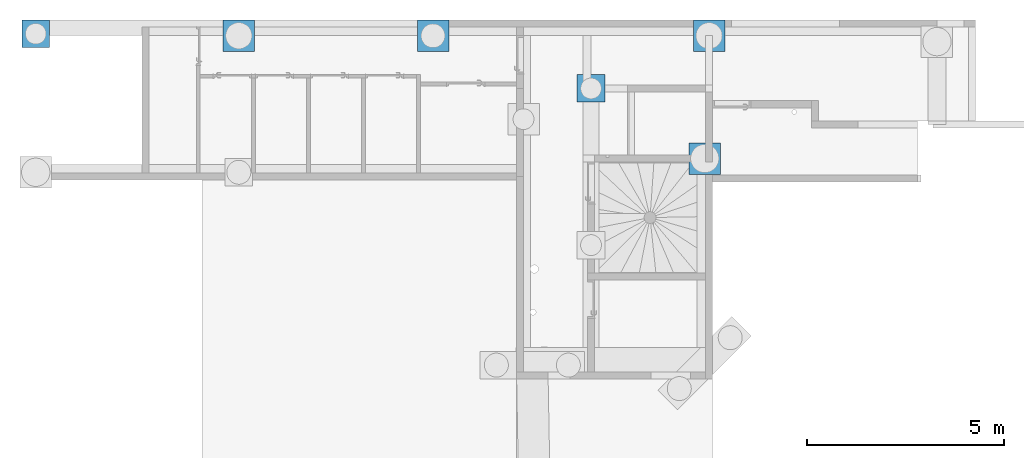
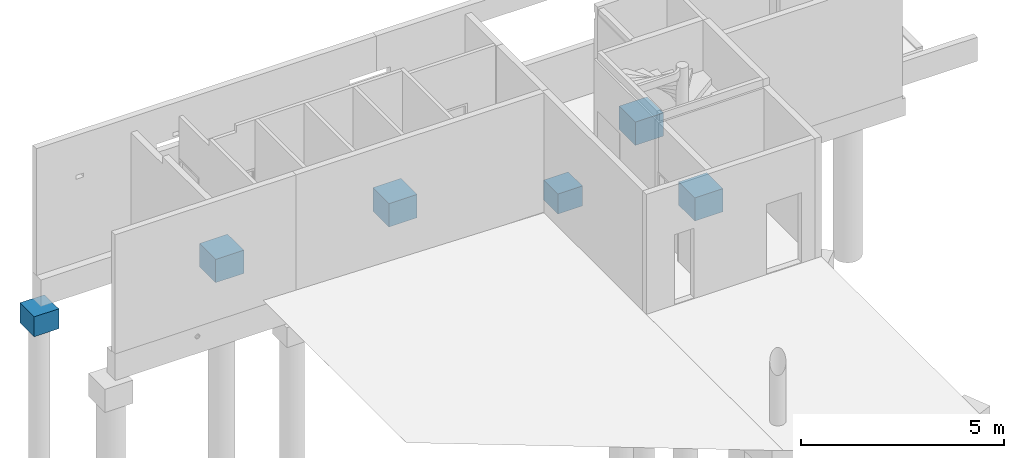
# One storey, part 11 of 14: 6 slabs.
"""IFC2X3 building model written with IfcOpenShell, lengths in centimetres."""

from ifc_helpers import new_model, entity, si_unit, converted_unit, derived_unit, direction, frame, origin, place, context, subcontext, project, spatial, faceted_brep, material, element, save


model = new_model("IFC2X3")

# Units and contexts
model_context = context("Model", 3, precision=0.001, world=origin(), true_north=direction((6.12303176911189e-17, 1.0)))
body_context = subcontext(model_context, "Body", "Model", "MODEL_VIEW")
ifc_project = project(units=[si_unit("LENGTHUNIT", "METRE", prefix="CENTI"), si_unit("AREAUNIT", "SQUARE_METRE"), si_unit("VOLUMEUNIT", "CUBIC_METRE"), converted_unit("PLANEANGLEUNIT", "DEGREE", entity("IfcRatioMeasure", 0.0174532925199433), si_unit("PLANEANGLEUNIT", "RADIAN"), dimensions=[0, 0, 0, 0, 0, 0, 0]), si_unit("MASSUNIT", "GRAM", prefix="KILO"), derived_unit("MASSDENSITYUNIT", [(si_unit("MASSUNIT", "GRAM", prefix="KILO"), 1), (si_unit("LENGTHUNIT", "METRE"), -3)]), si_unit("TIMEUNIT", "SECOND"), si_unit("FREQUENCYUNIT", "HERTZ"), si_unit("THERMODYNAMICTEMPERATUREUNIT", "DEGREE_CELSIUS"), derived_unit("THERMALTRANSMITTANCEUNIT", [(si_unit("MASSUNIT", "GRAM", prefix="KILO"), 1), (si_unit("THERMODYNAMICTEMPERATUREUNIT", "KELVIN"), -1), (si_unit("TIMEUNIT", "SECOND"), -3)]), derived_unit("VOLUMETRICFLOWRATEUNIT", [(si_unit("LENGTHUNIT", "METRE"), 3), (si_unit("TIMEUNIT", "SECOND"), -1)]), si_unit("ELECTRICCURRENTUNIT", "AMPERE"), si_unit("ELECTRICVOLTAGEUNIT", "VOLT"), si_unit("POWERUNIT", "WATT"), si_unit("FORCEUNIT", "NEWTON"), si_unit("ILLUMINANCEUNIT", "LUX"), si_unit("LUMINOUSFLUXUNIT", "LUMEN"), si_unit("LUMINOUSINTENSITYUNIT", "CANDELA"), derived_unit("USERDEFINED", [(si_unit("MASSUNIT", "GRAM", prefix="KILO"), -1), (si_unit("LENGTHUNIT", "METRE"), -2), (si_unit("TIMEUNIT", "SECOND"), 3), (si_unit("LUMINOUSFLUXUNIT", "LUMEN"), 1)]), derived_unit("LINEARVELOCITYUNIT", [(si_unit("LENGTHUNIT", "METRE"), 1), (si_unit("TIMEUNIT", "SECOND"), -1)]), si_unit("PRESSUREUNIT", "PASCAL"), derived_unit("USERDEFINED", [(si_unit("LENGTHUNIT", "METRE"), -2), (si_unit("MASSUNIT", "GRAM", prefix="KILO"), 1), (si_unit("TIMEUNIT", "SECOND"), -2)])], contexts=[model_context])

# Site, building, storey
site_placement = place(None, origin())
site = spatial("IfcSite", under=ifc_project, at=site_placement, Name="Default", CompositionType="ELEMENT")
building_placement = place(site_placement, origin())
building = spatial("IfcBuilding", under=site, at=building_placement, Name="CAGE 03", CompositionType="ELEMENT")
storey_placement = place(building_placement, frame((0.0, 0.0, -42.0)))
storey = spatial("IfcBuildingStorey", under=building, at=storey_placement, Name="+3.58", CompositionType="ELEMENT", Elevation=-42.0000000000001)

# Slabs
ifc_material = material(Name="Béton, C25/30")
slab_1_placement = place(storey_placement, frame((8753.36582014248, 5223.6606660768, -140.0)))
element("IfcSlab", 1, at=slab_1_placement, inside=storey, material=ifc_material, Name="M_Base-Rectangulaire:70x70x60ht", ObjectType="M_Base-Rectangulaire:70x70x60ht", PredefinedType="BASESLAB", context=body_context, shape_type="Brep", body=[
    faceted_brep([(70.0, 70.0, 60.0), (36.0, 70.0, 60.0), (34.0, 70.0, 60.0), (0.0, 70.0, 60.0), (0.0, 30.0, 60.0), (0.0, 0.0, 60.0), (70.0, 0.0, 60.0), (0.0, 0.0, 0.0), (8.500000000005, 35.0, 0.0), (10.692009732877, 30.0766655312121, 0.0), (0.0, 70.0, 0.0), (12.884019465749, 25.1533310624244, 0.0), (15.0760291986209, 20.2299965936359, 0.0), (17.2680389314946, 15.306662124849, 0.0), (22.3935302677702, 13.6412890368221, 0.0), (27.5190216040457, 11.9759159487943, 0.0), (32.6445129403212, 10.3105428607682, 0.0), (37.7700042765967, 8.64516977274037, 0.0), (70.0, 0.0, 0.0), (11.0305248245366, 42.7881545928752, 0.0), (13.5610496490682, 50.5763091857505, 0.0), (18.2282861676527, 53.2709394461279, 0.0), (22.895522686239, 55.9655697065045, 0.0), (27.5627592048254, 58.6601999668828, 0.0), (32.2299957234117, 61.3548302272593, 0.0), (70.0, 70.0, 0.0), (61.5000000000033, 35.0, 0.0), (59.3079902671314, 39.9233344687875, 0.0), (57.1159805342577, 44.8466689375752, 0.0), (54.9239708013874, 49.7700034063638, 0.0), (52.7319610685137, 54.6933378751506, 0.0), (47.6064697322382, 56.3587109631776, 0.0), (42.4809783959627, 58.0240840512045, 0.0), (37.3554870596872, 59.6894571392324, 0.0), (42.437240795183, 11.3398000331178, 0.0), (47.1044773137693, 14.0344302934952, 0.0), (51.7717138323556, 16.7290605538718, 0.0), (56.4389503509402, 19.4236908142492, 0.0), (58.9694751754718, 27.2118454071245, 0.0), (8.50000000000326, 35.0, 5.0), (10.692009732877, 39.9233344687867, 5.0), (12.884019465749, 44.8466689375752, 5.0), (15.0760291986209, 49.7700034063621, 5.0), (17.2680389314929, 54.6933378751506, 5.0), (22.3935302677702, 56.3587109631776, 5.0), (27.5190216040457, 58.0240840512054, 5.0), (32.6445129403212, 59.6894571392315, 5.0), (37.7700042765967, 61.3548302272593, 5.0), (42.437240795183, 58.6601999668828, 5.0), (47.1044773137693, 55.9655697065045, 5.0), (51.7717138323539, 53.2709394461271, 5.0), (56.4389503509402, 50.5763091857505, 5.0), (58.9694751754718, 42.7881545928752, 5.0), (61.5000000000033, 35.0, 5.0), (59.3079902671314, 30.0766655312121, 5.0), (57.1159805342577, 25.1533310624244, 5.0), (54.9239708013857, 20.2299965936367, 5.0), (52.7319610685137, 15.306662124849, 5.0), (47.6064697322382, 13.6412890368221, 5.0), (42.4809783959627, 11.9759159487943, 5.0), (37.3554870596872, 10.3105428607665, 5.0), (32.2299957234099, 8.64516977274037, 5.0), (27.5627592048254, 11.3398000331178, 5.0), (22.895522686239, 14.0344302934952, 5.0), (18.2282861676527, 16.7290605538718, 5.0), (13.5610496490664, 19.4236908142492, 5.0), (11.0305248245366, 27.2118454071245, 5.0)], [[[0, 1, 2, 3, 4, 5, 6]], [[7, 8, 9]], [[8, 7, 10]], [[7, 9, 11]], [[7, 11, 12]], [[7, 12, 13]], [[7, 13, 14]], [[7, 14, 15]], [[7, 15, 16]], [[7, 16, 17]], [[17, 18, 7]], [[10, 19, 8]], [[10, 20, 19]], [[10, 21, 20]], [[10, 22, 21]], [[10, 23, 22]], [[10, 24, 23]], [[24, 10, 25]], [[26, 25, 18]], [[25, 26, 27]], [[25, 27, 28]], [[25, 28, 29]], [[25, 29, 30]], [[25, 30, 31]], [[25, 31, 32]], [[25, 32, 33]], [[25, 33, 24]], [[18, 17, 34]], [[18, 34, 35]], [[18, 35, 36]], [[18, 36, 37]], [[18, 37, 38]], [[18, 38, 26]], [[4, 3, 10, 7, 5]], [[6, 5, 7, 18]], [[0, 6, 18, 25]], [[3, 2, 1, 0, 25, 10]], [[39, 40, 41, 42, 43, 44, 45, 46, 47, 48, 49, 50, 51, 52, 53, 54, 55, 56, 57, 58, 59, 60, 61, 62, 63, 64, 65, 66]], [[12, 11, 65]], [[66, 9, 39]], [[66, 65, 11]], [[65, 64, 12]], [[38, 37, 55]], [[62, 61, 15]], [[39, 9, 8]], [[35, 58, 36]], [[14, 13, 63]], [[37, 36, 57]], [[38, 54, 26]], [[15, 61, 16]], [[63, 13, 64]], [[11, 9, 66]], [[60, 16, 61]], [[64, 13, 12]], [[59, 58, 35]], [[14, 62, 15]], [[57, 36, 58]], [[56, 55, 37, 57]], [[60, 17, 16]], [[34, 17, 59, 35]], [[14, 63, 62]], [[53, 26, 54]], [[60, 59, 17]], [[38, 55, 54]], [[29, 28, 51]], [[52, 27, 53]], [[52, 51, 28]], [[51, 50, 29]], [[49, 30, 50]], [[48, 31, 49]], [[53, 27, 26]], [[24, 46, 23]], [[48, 47, 32]], [[42, 41, 20, 43]], [[19, 40, 8]], [[32, 47, 33]], [[28, 27, 52]], [[46, 24, 33]], [[50, 30, 29]], [[45, 44, 22]], [[31, 30, 49]], [[19, 20, 41]], [[48, 32, 31]], [[39, 8, 40]], [[45, 23, 46]], [[43, 21, 44]], [[22, 44, 21]], [[43, 20, 21]], [[46, 33, 47]], [[45, 22, 23]], [[19, 41, 40]]]),
])
slab_2_placement = place(storey_placement, frame((9757.86582014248, 5213.66066607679, -155.0)))
element("IfcSlab", 2, at=slab_2_placement, inside=storey, material=ifc_material, Name="M_Base-Rectangulaire:80x80x70ht", ObjectType="M_Base-Rectangulaire:80x80x70ht", PredefinedType="BASESLAB", context=body_context, shape_type="Brep", body=[
    faceted_brep([(80.0, 80.0, 70.0), (0.0, 80.0, 70.0), (0.0, 40.0, 70.0), (0.0, 0.0, 70.0), (80.0, 0.0, 70.0), (0.0, 0.0, 0.0), (9.49999999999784, 40.0, 0.0), (11.7333107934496, 34.6083107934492, 0.0), (0.0, 80.0, 0.0), (13.9666215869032, 29.2166215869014, 0.0), (16.199932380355, 23.8249323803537, 0.0), (18.4332431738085, 18.4332431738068, 0.0), (23.8249323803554, 16.1999323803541, 0.0), (29.216621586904, 13.9666215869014, 0.0), (34.6083107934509, 11.7333107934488, 0.0), (40.0, 9.49999999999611, 0.0), (80.0, 0.0, 0.0), (11.7333107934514, 45.391689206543, 0.0), (13.9666215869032, 50.7833784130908, 0.0), (16.199932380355, 56.1750676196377, 0.0), (18.4332431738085, 61.5667568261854, 0.0), (23.8249323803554, 63.8000676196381, 0.0), (29.216621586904, 66.0333784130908, 0.0), (34.6083107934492, 68.2666892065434, 0.0), (40.0, 70.4999999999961, 0.0), (80.0, 80.0, 0.0), (70.4999999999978, 40.0, 0.0), (68.2666892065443, 45.3916892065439, 0.0), (66.0333784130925, 50.7833784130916, 0.0), (63.8000676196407, 56.1750676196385, 0.0), (61.5667568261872, 61.5667568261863, 0.0), (56.1750676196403, 63.800067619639, 0.0), (50.7833784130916, 66.0333784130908, 0.0), (45.3916892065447, 68.2666892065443, 0.0), (45.3916892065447, 11.7333107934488, 0.0), (50.7833784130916, 13.9666215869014, 0.0), (56.1750676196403, 16.1999323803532, 0.0), (61.5667568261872, 18.4332431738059, 0.0), (63.8000676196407, 23.8249323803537, 0.0), (66.0333784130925, 29.2166215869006, 0.0), (68.2666892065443, 34.6083107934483, 0.0), (40.0, 70.4999999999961, 5.0), (45.3916892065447, 68.2666892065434, 5.0), (50.7833784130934, 66.0333784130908, 5.0), (56.1750676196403, 63.8000676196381, 5.0), (61.5667568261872, 61.5667568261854, 5.0), (64.814785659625, 53.7253215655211, 5.0), (67.6573928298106, 46.8626607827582, 5.0), (70.4999999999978, 40.0, 5.0), (67.6573928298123, 33.137339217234, 5.0), (66.0333784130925, 29.2166215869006, 5.0), (63.8000676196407, 23.8249323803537, 5.0), (61.5667568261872, 18.4332431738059, 5.0), (56.1750676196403, 16.1999323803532, 5.0), (50.7833784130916, 13.9666215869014, 5.0), (45.3916892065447, 11.7333107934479, 5.0), (40.0, 9.49999999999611, 5.0), (34.6083107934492, 11.7333107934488, 5.0), (29.216621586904, 13.9666215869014, 5.0), (23.8249323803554, 16.1999323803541, 5.0), (18.4332431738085, 18.4332431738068, 5.0), (15.1852143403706, 26.2746784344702, 5.0), (12.3426071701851, 33.1373392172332, 5.0), (9.49999999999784, 40.0, 5.0), (12.3426071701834, 46.8626607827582, 5.0), (13.9666215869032, 50.7833784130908, 5.0), (16.1999323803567, 56.1750676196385, 5.0), (18.4332431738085, 61.5667568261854, 5.0), (23.8249323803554, 63.8000676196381, 5.0), (29.216621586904, 66.0333784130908, 5.0), (34.6083107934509, 68.2666892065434, 5.0)], [[[0, 1, 2, 3, 4]], [[5, 6, 7]], [[6, 5, 8]], [[5, 7, 9]], [[5, 9, 10]], [[5, 10, 11]], [[5, 11, 12]], [[5, 12, 13]], [[5, 13, 14]], [[5, 14, 15]], [[15, 16, 5]], [[8, 17, 6]], [[8, 18, 17]], [[8, 19, 18]], [[8, 20, 19]], [[8, 21, 20]], [[8, 22, 21]], [[8, 23, 22]], [[8, 24, 23]], [[24, 8, 25]], [[26, 25, 16]], [[25, 26, 27]], [[25, 27, 28]], [[25, 28, 29]], [[25, 29, 30]], [[25, 30, 31]], [[25, 31, 32]], [[25, 32, 33]], [[25, 33, 24]], [[16, 15, 34]], [[16, 34, 35]], [[16, 35, 36]], [[16, 36, 37]], [[16, 37, 38]], [[16, 38, 39]], [[16, 39, 40]], [[16, 40, 26]], [[2, 1, 8, 5, 3]], [[4, 3, 5, 16]], [[0, 4, 16, 25]], [[1, 0, 25, 8]], [[41, 42, 43, 44, 45, 46, 47, 48, 49, 50, 51, 52, 53, 54, 55, 56, 57, 58, 59, 60, 61, 62, 63, 64, 65, 66, 67, 68, 69, 70]], [[11, 60, 59, 58, 57, 56, 15, 14, 13, 12]], [[40, 39, 38, 37, 52, 51, 50, 49, 48, 26]], [[11, 10, 9, 7, 6, 63, 62, 61, 60]], [[34, 15, 56, 55, 54, 53, 52, 37, 36, 35]], [[30, 45, 44, 43, 42, 41, 24, 33, 32, 31]], [[17, 18, 19, 20, 67, 66, 65, 64, 63, 6]], [[30, 29, 28, 27, 26, 48, 47, 46, 45]], [[23, 24, 41, 70, 69, 68, 67, 20, 21, 22]]]),
])
slab_3_placement = place(storey_placement, frame((10459.3658201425, 5213.66066607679, -155.0)))
element("IfcSlab", 3, at=slab_3_placement, inside=storey, material=ifc_material, Name="M_Base-Rectangulaire:80x80x70ht", ObjectType="M_Base-Rectangulaire:80x80x70ht", PredefinedType="BASESLAB", context=body_context, shape_type="Brep", body=[
    faceted_brep([(40.0, 80.0, 70.0), (0.0, 80.0, 70.0), (0.0, 0.0, 70.0), (80.0, 0.0, 70.0), (80.0, 80.0, 70.0), (0.0, 0.0, 0.0), (6.50000000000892, 40.0, 0.0), (8.68580031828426, 34.3577989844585, 0.0), (0.0, 80.0, 0.0), (10.8716006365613, 28.7155979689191, 0.0), (13.0574009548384, 23.0733969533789, 0.0), (15.2432012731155, 17.4311959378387, 0.0), (22.2051484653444, 14.7341232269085, 0.0), (29.1670956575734, 12.0370505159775, 0.0), (36.1290428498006, 9.33997780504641, 0.0), (43.0909900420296, 6.64290509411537, 0.0), (80.0, 0.0, 0.0), (8.68580031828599, 45.6422010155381, 0.0), (10.8716006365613, 51.2844020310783, 0.0), (13.0574009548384, 56.9266030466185, 0.0), (15.2432012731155, 62.5688040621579, 0.0), (20.6596534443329, 65.265876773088, 0.0), (26.076105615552, 67.9629494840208, 0.0), (31.4925577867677, 70.6600221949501, 0.0), (36.9090099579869, 73.357094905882, 0.0), (80.0, 80.0, 0.0), (73.5000000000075, 40.0, 0.0), (71.3141996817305, 45.6422010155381, 0.0), (69.1283993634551, 51.2844020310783, 0.0), (66.9425990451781, 56.9266030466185, 0.0), (64.756798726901, 62.5688040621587, 0.0), (57.794851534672, 65.2658767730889, 0.0), (50.8329043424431, 67.9629494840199, 0.0), (43.8709571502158, 70.660022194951, 0.0), (48.507442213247, 9.33997780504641, 0.0), (53.9238943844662, 12.0370505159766, 0.0), (59.3403465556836, 14.7341232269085, 0.0), (64.756798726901, 17.4311959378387, 0.0), (66.9425990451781, 23.0733969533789, 0.0), (69.1283993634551, 28.7155979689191, 0.0), (71.3141996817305, 34.3577989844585, 0.0), (64.7567987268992, 17.4311959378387, 5.0), (57.7948515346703, 14.7341232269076, 5.0), (50.8329043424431, 12.0370505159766, 5.0), (43.8709571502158, 9.33997780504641, 5.0), (36.9090099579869, 6.64290509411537, 5.0), (31.4925577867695, 9.33997780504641, 5.0), (26.0761056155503, 12.0370505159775, 5.0), (20.6596534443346, 14.7341232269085, 5.0), (15.2432012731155, 17.4311959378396, 5.0), (13.0574009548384, 23.0733969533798, 5.0), (10.8716006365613, 28.7155979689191, 5.0), (9.32055531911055, 32.7193074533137, 5.0), (6.50000000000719, 40.0, 5.0), (9.3205553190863, 47.2806925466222, 5.0), (10.8716006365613, 51.2844020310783, 5.0), (13.0574009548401, 56.9266030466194, 5.0), (15.2432012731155, 62.5688040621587, 5.0), (22.2051484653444, 65.2658767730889, 5.0), (29.1670956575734, 67.9629494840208, 5.0), (36.1290428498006, 70.6600221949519, 5.0), (43.0909900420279, 73.357094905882, 5.0), (48.507442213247, 70.660022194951, 5.0), (53.9238943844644, 67.9629494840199, 5.0), (59.3403465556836, 65.2658767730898, 5.0), (64.7567987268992, 62.5688040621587, 5.0), (66.9425990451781, 56.9266030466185, 5.0), (69.1283993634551, 51.2844020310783, 5.0), (70.679444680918, 47.2806925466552, 5.0), (73.5000000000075, 40.0, 5.0), (70.679444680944, 32.7193074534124, 5.0), (69.1283993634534, 28.7155979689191, 5.0), (66.9425990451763, 23.0733969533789, 5.0)], [[[0, 1, 2, 3, 4]], [[5, 6, 7]], [[6, 5, 8]], [[5, 7, 9]], [[5, 9, 10]], [[5, 10, 11]], [[5, 11, 12]], [[5, 12, 13]], [[5, 13, 14]], [[5, 14, 15]], [[15, 16, 5]], [[8, 17, 6]], [[8, 18, 17]], [[8, 19, 18]], [[8, 20, 19]], [[8, 21, 20]], [[8, 22, 21]], [[8, 23, 22]], [[8, 24, 23]], [[24, 8, 25]], [[26, 25, 16]], [[25, 26, 27]], [[25, 27, 28]], [[25, 28, 29]], [[25, 29, 30]], [[25, 30, 31]], [[25, 31, 32]], [[25, 32, 33]], [[25, 33, 24]], [[16, 15, 34]], [[16, 34, 35]], [[16, 35, 36]], [[16, 36, 37]], [[16, 37, 38]], [[16, 38, 39]], [[16, 39, 40]], [[16, 40, 26]], [[2, 1, 8, 5]], [[3, 2, 5, 16]], [[4, 3, 16, 25]], [[0, 4, 25, 8, 1]], [[41, 42, 43, 44, 45, 46, 47, 48, 49, 50, 51, 52, 53, 54, 55, 56, 57, 58, 59, 60, 61, 62, 63, 64, 65, 66, 67, 68, 69, 70, 71, 72]], [[7, 6, 53, 52, 51, 50, 49, 11, 10, 9]], [[40, 39, 38, 37, 41, 72, 71, 70, 69, 26]], [[49, 48, 11]], [[48, 47, 12]], [[37, 36, 41]], [[43, 34, 44]], [[36, 42, 41]], [[15, 14, 45]], [[13, 12, 47]], [[48, 12, 11]], [[36, 35, 42]], [[42, 35, 43]], [[13, 46, 14]], [[15, 44, 34]], [[43, 35, 34]], [[45, 14, 46]], [[13, 47, 46]], [[15, 45, 44]], [[27, 26, 69, 68, 67, 66, 65, 30, 29, 28]], [[17, 18, 19, 20, 57, 56, 55, 54, 53, 6]], [[65, 64, 30]], [[64, 63, 31]], [[20, 21, 57]], [[59, 23, 60]], [[21, 58, 57]], [[24, 33, 61]], [[32, 31, 63]], [[64, 31, 30]], [[21, 22, 58]], [[58, 22, 59]], [[32, 62, 33]], [[24, 60, 23]], [[59, 22, 23]], [[61, 33, 62]], [[32, 63, 62]], [[24, 61, 60]]]),
])
slab_4_placement = place(storey_placement, frame((9264.36582014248, 5213.66066607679, -150.0)))
element("IfcSlab", 4, at=slab_4_placement, inside=storey, material=ifc_material, Name="M_Base-Rectangulaire:80x80x70ht", ObjectType="M_Base-Rectangulaire:80x80x70ht", PredefinedType="BASESLAB", context=body_context, shape_type="Brep", body=[
    faceted_brep([(40.0, 80.0, 70.0), (0.0, 80.0, 70.0), (0.0, 0.0, 70.0), (80.0, 0.0, 70.0), (80.0, 80.0, 70.0), (0.0, 0.0, 0.0), (6.50000000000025, 40.0, 0.0), (8.6858003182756, 34.3577989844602, 0.0), (0.0, 80.0, 0.0), (10.8716006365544, 28.71559796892, 0.0), (13.0574009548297, 23.0733969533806, 0.0), (15.2432012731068, 17.4311959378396, 0.0), (22.2051484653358, 14.7341232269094, 0.0), (29.167095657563, 12.0370505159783, 0.0), (36.129042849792, 9.33997780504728, 0.0), (43.0909900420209, 6.64290509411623, 0.0), (80.0, 0.0, 0.0), (8.68580031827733, 45.6422010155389, 0.0), (10.8716006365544, 51.2844020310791, 0.0), (13.0574009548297, 56.9266030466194, 0.0), (15.2432012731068, 62.5688040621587, 0.0), (20.6596534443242, 65.2658767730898, 0.0), (26.0761056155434, 67.9629494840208, 0.0), (31.4925577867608, 70.6600221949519, 0.0), (36.9090099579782, 73.3570949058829, 0.0), (80.0, 80.0, 0.0), (73.4999999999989, 40.0, 0.0), (71.3141996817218, 45.6422010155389, 0.0), (69.1283993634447, 51.2844020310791, 0.0), (66.9425990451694, 56.9266030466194, 0.0), (64.7567987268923, 62.5688040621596, 0.0), (57.7948515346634, 65.2658767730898, 0.0), (50.8329043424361, 67.9629494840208, 0.0), (43.8709571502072, 70.6600221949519, 0.0), (48.5074422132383, 9.33997780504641, 0.0), (53.9238943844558, 12.0370505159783, 0.0), (59.3403465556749, 14.7341232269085, 0.0), (64.7567987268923, 17.4311959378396, 0.0), (66.9425990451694, 23.0733969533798, 0.0), (69.1283993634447, 28.7155979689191, 0.0), (71.3141996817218, 34.3577989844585, 0.0), (64.7567987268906, 17.4311959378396, 5.0), (57.7948515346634, 14.7341232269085, 5.0), (50.8329043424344, 12.0370505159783, 5.0), (43.8709571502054, 9.33997780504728, 5.0), (36.9090099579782, 6.64290509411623, 5.0), (31.4925577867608, 9.33997780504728, 5.0), (26.0761056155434, 12.0370505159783, 5.0), (20.659653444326, 14.7341232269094, 5.0), (15.2432012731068, 17.4311959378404, 5.0), (13.0574009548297, 23.0733969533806, 5.0), (10.8716006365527, 28.71559796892, 5.0), (9.32055531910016, 32.7193074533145, 5.0), (6.49999999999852, 40.0, 5.0), (9.32055531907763, 47.2806925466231, 5.0), (10.8716006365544, 51.28440203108, 5.0), (13.0574009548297, 56.9266030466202, 5.0), (15.2432012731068, 62.5688040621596, 5.0), (22.2051484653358, 65.2658767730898, 5.0), (29.167095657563, 67.9629494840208, 5.0), (36.129042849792, 70.6600221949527, 5.0), (43.0909900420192, 73.3570949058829, 5.0), (48.5074422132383, 70.6600221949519, 5.0), (53.9238943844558, 67.9629494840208, 5.0), (59.3403465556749, 65.2658767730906, 5.0), (64.7567987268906, 62.5688040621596, 5.0), (66.9425990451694, 56.9266030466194, 5.0), (69.1283993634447, 51.28440203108, 5.0), (70.6794446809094, 47.280692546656, 5.0), (73.4999999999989, 40.0, 5.0), (70.6794446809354, 32.7193074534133, 5.0), (69.1283993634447, 28.7155979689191, 5.0), (66.9425990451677, 23.0733969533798, 5.0)], [[[0, 1, 2, 3, 4]], [[5, 6, 7]], [[6, 5, 8]], [[5, 7, 9]], [[5, 9, 10]], [[5, 10, 11]], [[5, 11, 12]], [[5, 12, 13]], [[5, 13, 14]], [[5, 14, 15]], [[15, 16, 5]], [[8, 17, 6]], [[8, 18, 17]], [[8, 19, 18]], [[8, 20, 19]], [[8, 21, 20]], [[8, 22, 21]], [[8, 23, 22]], [[8, 24, 23]], [[24, 8, 25]], [[26, 25, 16]], [[25, 26, 27]], [[25, 27, 28]], [[25, 28, 29]], [[25, 29, 30]], [[25, 30, 31]], [[25, 31, 32]], [[25, 32, 33]], [[25, 33, 24]], [[16, 15, 34]], [[16, 34, 35]], [[16, 35, 36]], [[16, 36, 37]], [[16, 37, 38]], [[16, 38, 39]], [[16, 39, 40]], [[16, 40, 26]], [[2, 1, 8, 5]], [[3, 2, 5, 16]], [[4, 3, 16, 25]], [[0, 4, 25, 8, 1]], [[41, 42, 43, 44, 45, 46, 47, 48, 49, 50, 51, 52, 53, 54, 55, 56, 57, 58, 59, 60, 61, 62, 63, 64, 65, 66, 67, 68, 69, 70, 71, 72]], [[7, 6, 53, 52, 51, 50, 49, 11, 10, 9]], [[40, 39, 38, 37, 41, 72, 71, 70, 69, 26]], [[49, 48, 11]], [[48, 47, 12]], [[37, 36, 41]], [[43, 34, 44]], [[36, 42, 41]], [[15, 14, 45]], [[13, 12, 47]], [[48, 12, 11]], [[36, 35, 42]], [[42, 35, 43]], [[13, 46, 14]], [[15, 44, 34]], [[43, 35, 34]], [[45, 14, 46]], [[13, 47, 46]], [[15, 45, 44]], [[27, 26, 69, 68, 67, 66, 65, 30, 29, 28]], [[17, 18, 19, 20, 57, 56, 55, 54, 53, 6]], [[65, 64, 30]], [[64, 63, 31]], [[20, 21, 57]], [[59, 23, 60]], [[21, 58, 57]], [[24, 33, 61]], [[32, 31, 63]], [[64, 31, 30]], [[21, 22, 58]], [[58, 22, 59]], [[32, 62, 33]], [[24, 60, 23]], [[59, 22, 23]], [[61, 33, 62]], [[32, 63, 62]], [[24, 61, 60]]]),
])
slab_5_placement = place(storey_placement, frame((10164.3658201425, 5084.66066607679, -180.0)))
element("IfcSlab", 5, at=slab_5_placement, inside=storey, material=ifc_material, Name="M_Base-Rectangulaire:70x70x60ht", ObjectType="M_Base-Rectangulaire:70x70x60ht", PredefinedType="BASESLAB", context=body_context, shape_type="Brep", body=[
    faceted_brep([(70.0, 70.0, 60.0), (0.0, 70.0, 60.0), (0.0, 0.0, 60.0), (70.0, 0.0, 60.0), (0.0, 0.0, 0.0), (8.50000000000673, 35.0, 0.0), (10.6920097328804, 30.0766655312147, 0.0), (0.0, 70.0, 0.0), (12.8840194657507, 25.153331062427, 0.0), (15.0760291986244, 20.2299965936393, 0.0), (17.2680389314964, 15.3066621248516, 0.0), (22.3935302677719, 13.6412890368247, 0.0), (27.5190216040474, 11.9759159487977, 0.0), (32.6445129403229, 10.3105428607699, 0.0), (37.7700042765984, 8.64516977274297, 0.0), (70.0, 0.0, 0.0), (11.0305248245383, 42.7881545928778, 0.0), (13.5610496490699, 50.5763091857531, 0.0), (18.2282861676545, 53.2709394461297, 0.0), (22.8955226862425, 55.9655697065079, 0.0), (27.5627592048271, 58.6601999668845, 0.0), (32.2299957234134, 61.3548302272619, 0.0), (70.0, 70.0, 0.0), (61.5000000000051, 35.0, 0.0), (59.3079902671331, 39.9233344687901, 0.0), (57.1159805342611, 44.8466689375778, 0.0), (54.9239708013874, 49.7700034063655, 0.0), (52.7319610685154, 54.6933378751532, 0.0), (47.6064697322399, 56.3587109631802, 0.0), (42.4809783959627, 58.0240840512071, 0.0), (37.3554870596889, 59.689457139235, 0.0), (42.4372407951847, 11.3398000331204, 0.0), (47.1044773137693, 14.0344302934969, 0.0), (51.7717138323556, 16.7290605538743, 0.0), (56.4389503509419, 19.4236908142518, 0.0), (58.9694751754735, 27.2118454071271, 0.0), (8.50000000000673, 35.0, 5.0), (11.3061340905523, 28.6973196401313, 5.0), (14.1122681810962, 22.3946392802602, 5.0), (17.2680389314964, 15.3066621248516, 5.0), (37.7700042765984, 8.64516977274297, 5.0), (42.4372407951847, 11.3398000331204, 5.0), (47.1044773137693, 14.0344302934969, 5.0), (51.7717138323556, 16.7290605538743, 5.0), (56.4389503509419, 19.4236908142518, 5.0), (32.6445129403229, 10.3105428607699, 5.0), (22.3935302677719, 13.6412890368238, 5.0), (27.5190216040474, 11.9759159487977, 5.0), (58.9694751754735, 27.2118454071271, 5.0), (61.5000000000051, 35.0, 5.0), (58.6938659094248, 41.3026803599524, 5.0), (55.8877318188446, 47.6053607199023, 5.0), (52.7319610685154, 54.6933378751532, 5.0), (32.2299957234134, 61.3548302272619, 5.0), (27.5627592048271, 58.6601999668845, 5.0), (22.8955226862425, 55.9655697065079, 5.0), (18.2282861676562, 53.2709394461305, 5.0), (13.5610496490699, 50.5763091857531, 5.0), (37.3554870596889, 59.689457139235, 5.0), (47.6064697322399, 56.3587109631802, 5.0), (42.4809783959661, 58.024084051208, 5.0), (11.0305248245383, 42.7881545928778, 5.0)], [[[0, 1, 2, 3]], [[4, 5, 6]], [[5, 4, 7]], [[4, 6, 8]], [[4, 8, 9]], [[4, 9, 10]], [[4, 10, 11]], [[4, 11, 12]], [[4, 12, 13]], [[4, 13, 14]], [[14, 15, 4]], [[7, 16, 5]], [[7, 17, 16]], [[7, 18, 17]], [[7, 19, 18]], [[7, 20, 19]], [[7, 21, 20]], [[21, 7, 22]], [[23, 22, 15]], [[22, 23, 24]], [[22, 24, 25]], [[22, 25, 26]], [[22, 26, 27]], [[22, 27, 28]], [[22, 28, 29]], [[22, 29, 30]], [[22, 30, 21]], [[15, 14, 31]], [[15, 31, 32]], [[15, 32, 33]], [[15, 33, 34]], [[15, 34, 35]], [[15, 35, 23]], [[2, 1, 7, 4]], [[3, 2, 4, 15]], [[0, 3, 15, 22]], [[1, 0, 22, 7]], [[10, 9, 8, 6, 5, 36, 37, 38, 39]], [[33, 32, 31, 14, 40, 41, 42, 43, 44, 34]], [[45, 40, 14, 13, 12, 11, 10, 39, 46, 47]], [[35, 34, 44, 48, 49, 23]], [[27, 26, 25, 24, 23, 49, 50, 51, 52]], [[18, 19, 20, 21, 53, 54, 55, 56, 57, 17]], [[58, 53, 21, 30, 29, 28, 27, 52, 59, 60]], [[16, 17, 57, 61, 36, 5]], [[39, 38, 37, 36, 61, 57, 56, 55, 54, 53, 58, 60, 59, 52, 51, 50, 49, 48, 44, 43, 42, 41, 40, 45, 47, 46]]]),
])
slab_6_placement = place(storey_placement, frame((10448.3658201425, 4901.66066607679, -190.0)))
element("IfcSlab", 6, at=slab_6_placement, inside=storey, material=ifc_material, Name="M_Base-Rectangulaire:80x80x70ht", ObjectType="M_Base-Rectangulaire:80x80x70ht", PredefinedType="BASESLAB", context=body_context, shape_type="Brep", body=[
    faceted_brep([(80.0, 80.0, 70.0), (0.0, 80.0, 70.0), (0.0, 0.0, 70.0), (80.0, 0.0, 70.0), (0.0, 0.0, 0.0), (4.0, 40.0, 0.0), (6.34891974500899, 33.9367392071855, 0.0), (0.0, 80.0, 0.0), (8.69783949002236, 27.8734784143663, 0.0), (11.0467592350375, 21.8102176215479, 0.0), (13.3956789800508, 15.7469568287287, 0.0), (20.8771744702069, 12.848610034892, 0.0), (28.3586699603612, 9.9502632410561, 0.0), (35.840165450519, 7.05191644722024, 0.0), (43.3216609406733, 4.15356965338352, 0.0), (80.0, 0.0, 0.0), (6.34891974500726, 46.063260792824, 0.0), (8.69783949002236, 52.1265215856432, 0.0), (11.0467592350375, 58.1897823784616, 0.0), (13.3956789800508, 64.2530431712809, 0.0), (19.2163439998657, 67.1513899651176, 0.0), (25.0370090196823, 70.0497367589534, 0.0), (30.8576740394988, 72.9480835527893, 0.0), (36.6783390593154, 75.846430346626, 0.0), (80.0, 80.0, 0.0), (76.0, 40.0, 0.0), (73.6510802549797, 46.063260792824, 0.0), (71.3021605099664, 52.1265215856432, 0.0), (68.9532407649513, 58.1897823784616, 0.0), (66.6043210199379, 64.2530431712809, 0.0), (59.1228255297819, 67.1513899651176, 0.0), (51.6413300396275, 70.0497367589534, 0.0), (44.1598345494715, 72.9480835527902, 0.0), (49.1423259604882, 7.05191644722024, 0.0), (54.9629909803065, 9.9502632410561, 0.0), (60.7836560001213, 12.8486100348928, 0.0), (66.6043210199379, 15.7469568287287, 0.0), (68.9532407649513, 21.8102176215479, 0.0), (71.3021605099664, 27.8734784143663, 0.0), (73.6510802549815, 33.9367392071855, 0.0), (28.3586699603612, 9.9502632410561, 5.0), (35.840165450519, 7.05191644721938, 5.0), (43.3216609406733, 4.15356965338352, 5.0), (13.3956789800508, 15.7469568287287, 5.0), (20.8771744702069, 12.848610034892, 5.0), (66.6043210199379, 15.7469568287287, 5.0), (68.9532407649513, 21.8102176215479, 5.0), (71.3021605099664, 27.8734784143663, 5.0), (73.0760935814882, 32.4525275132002, 5.0), (76.0, 40.0, 5.0), (4.0, 40.0, 5.0), (6.9239064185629, 32.4525275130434, 5.0), (9.84781283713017, 24.9050550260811, 5.0), (49.1423259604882, 7.05191644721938, 5.0), (54.9629909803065, 9.9502632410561, 5.0), (60.7836560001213, 12.8486100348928, 5.0), (66.6043210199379, 64.2530431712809, 5.0), (59.1228255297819, 67.1513899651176, 5.0), (51.6413300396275, 70.0497367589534, 5.0), (44.1598345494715, 72.9480835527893, 5.0), (36.6783390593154, 75.846430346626, 5.0), (13.3956789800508, 64.2530431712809, 5.0), (11.0467592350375, 58.1897823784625, 5.0), (8.69783949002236, 52.1265215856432, 5.0), (6.92390641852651, 47.5474724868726, 5.0), (73.0760935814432, 47.5474724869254, 5.0), (70.1521871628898, 55.0949449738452, 5.0), (30.8576740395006, 72.9480835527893, 5.0), (25.0370090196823, 70.0497367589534, 5.0), (19.2163439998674, 67.1513899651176, 5.0)], [[[0, 1, 2, 3]], [[4, 5, 6]], [[5, 4, 7]], [[4, 6, 8]], [[4, 8, 9]], [[4, 9, 10]], [[4, 10, 11]], [[4, 11, 12]], [[4, 12, 13]], [[4, 13, 14]], [[14, 15, 4]], [[7, 16, 5]], [[7, 17, 16]], [[7, 18, 17]], [[7, 19, 18]], [[7, 20, 19]], [[7, 21, 20]], [[7, 22, 21]], [[7, 23, 22]], [[23, 7, 24]], [[25, 24, 15]], [[24, 25, 26]], [[24, 26, 27]], [[24, 27, 28]], [[24, 28, 29]], [[24, 29, 30]], [[24, 30, 31]], [[24, 31, 32]], [[24, 32, 23]], [[15, 14, 33]], [[15, 33, 34]], [[15, 34, 35]], [[15, 35, 36]], [[15, 36, 37]], [[15, 37, 38]], [[15, 38, 39]], [[15, 39, 25]], [[2, 1, 7, 4]], [[3, 2, 4, 15]], [[0, 3, 15, 24]], [[1, 0, 24, 7]], [[40, 41, 42, 14, 13, 12, 11, 10, 43, 44]], [[39, 38, 37, 36, 45, 46, 47, 48, 49, 25]], [[10, 9, 8, 6, 5, 50, 51, 52, 43]], [[33, 14, 42, 53, 54, 55, 45, 36, 35, 34]], [[30, 29, 56, 57, 58, 59, 60, 23, 32, 31]], [[16, 17, 18, 19, 61, 62, 63, 64, 50, 5]], [[29, 28, 27, 26, 25, 49, 65, 66, 56]], [[22, 23, 60, 67, 68, 69, 61, 19, 20, 21]], [[50, 64, 63, 62, 61, 69, 68, 67, 60, 59, 58, 57, 56, 66, 65, 49, 48, 47, 46, 45, 55, 54, 53, 42, 41, 40, 44, 43, 52, 51]]]),
])

save(model, "model.ifc")
